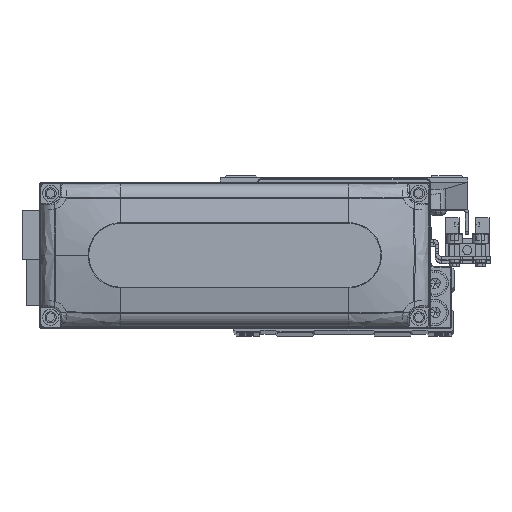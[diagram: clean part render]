
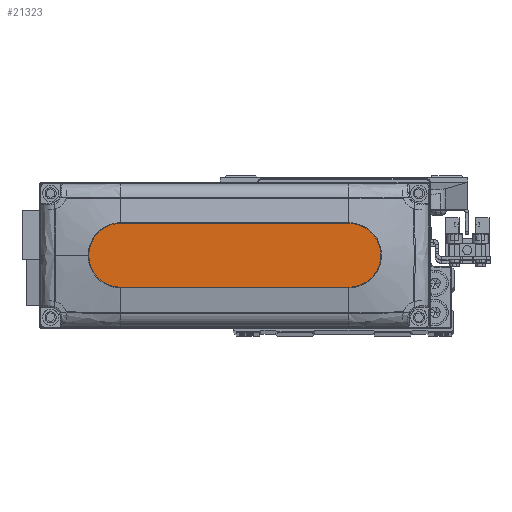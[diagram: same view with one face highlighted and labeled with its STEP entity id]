
A CAD part, top view. The second image highlights one B-rep face of the part: STEP entity #21323.
In plain terms, the highlighted planar face has unit normal (0, 0, 1).
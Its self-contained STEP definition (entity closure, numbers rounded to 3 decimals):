
#344 = VECTOR ( 'NONE', #43175, 1000. ) ;
#2510 = VERTEX_POINT ( 'NONE', #34131 ) ;
#3864 = EDGE_CURVE ( 'NONE', #31691, #20335, #16125, .T. ) ;
#5276 = DIRECTION ( 'NONE',  ( 1., 0., 0. ) ) ;
#5396 = AXIS2_PLACEMENT_3D ( 'NONE', #22849, #36994, #5276 ) ;
#8763 = PLANE ( 'NONE',  #5396 ) ;
#8989 = DIRECTION ( 'NONE',  ( 1., 0., 0. ) ) ;
#8990 = ORIENTED_EDGE ( 'NONE', *, *, #3864, .T. ) ;
#9927 = AXIS2_PLACEMENT_3D ( 'NONE', #17514, #31660, #45148 ) ;
#11906 = DIRECTION ( 'NONE',  ( 1., 0., 0. ) ) ;
#14103 = EDGE_CURVE ( 'NONE', #20335, #24855, #35795, .T. ) ;
#14937 = LINE ( 'NONE', #29043, #344 ) ;
#15816 = AXIS2_PLACEMENT_3D ( 'NONE', #29499, #43616, #11906 ) ;
#16125 = LINE ( 'NONE', #30252, #42280 ) ;
#17514 = CARTESIAN_POINT ( 'NONE',  ( 35., 0., 28. ) ) ;
#17917 = AXIS2_PLACEMENT_3D ( 'NONE', #26553, #40703, #8989 ) ;
#19234 = EDGE_CURVE ( 'NONE', #24855, #40219, #29859, .T. ) ;
#19652 = CARTESIAN_POINT ( 'NONE',  ( 35., 10., 28. ) ) ;
#19847 = ORIENTED_EDGE ( 'NONE', *, *, #14103, .T. ) ;
#20222 = ORIENTED_EDGE ( 'NONE', *, *, #22660, .T. ) ;
#20335 = VERTEX_POINT ( 'NONE', #43115 ) ;
#21323 = ADVANCED_FACE ( 'NONE', ( #40478 ), #8763, .T. ) ;
#22660 = EDGE_CURVE ( 'NONE', #2510, #31691, #37922, .T. ) ;
#22849 = CARTESIAN_POINT ( 'NONE',  ( 0., 0., 28. ) ) ;
#24855 = VERTEX_POINT ( 'NONE', #37961 ) ;
#25147 = EDGE_LOOP ( 'NONE', ( #38349, #20222, #8990, #19847, #29548 ) ) ;
#26553 = CARTESIAN_POINT ( 'NONE',  ( -35., 0., 28. ) ) ;
#29043 = CARTESIAN_POINT ( 'NONE',  ( -35., 10., 28. ) ) ;
#29499 = CARTESIAN_POINT ( 'NONE',  ( 35., 0., 28. ) ) ;
#29515 = CARTESIAN_POINT ( 'NONE',  ( -35., -10., 28. ) ) ;
#29548 = ORIENTED_EDGE ( 'NONE', *, *, #19234, .T. ) ;
#29859 = CIRCLE ( 'NONE', #9927, 10. ) ;
#30252 = CARTESIAN_POINT ( 'NONE',  ( -35., -10., 28. ) ) ;
#31660 = DIRECTION ( 'NONE',  ( 0., 0., 1. ) ) ;
#31691 = VERTEX_POINT ( 'NONE', #29515 ) ;
#34131 = CARTESIAN_POINT ( 'NONE',  ( -35., 10., 28. ) ) ;
#35795 = CIRCLE ( 'NONE', #15816, 10. ) ;
#36994 = DIRECTION ( 'NONE',  ( 0., 0., 1. ) ) ;
#37922 = CIRCLE ( 'NONE', #17917, 10. ) ;
#37961 = CARTESIAN_POINT ( 'NONE',  ( 45., 0., 28. ) ) ;
#38349 = ORIENTED_EDGE ( 'NONE', *, *, #44413, .T. ) ;
#40219 = VERTEX_POINT ( 'NONE', #19652 ) ;
#40478 = FACE_OUTER_BOUND ( 'NONE', #25147, .T. ) ;
#40703 = DIRECTION ( 'NONE',  ( 0., 0., 1. ) ) ;
#42280 = VECTOR ( 'NONE', #44385, 1000. ) ;
#43115 = CARTESIAN_POINT ( 'NONE',  ( 35., -10., 28. ) ) ;
#43175 = DIRECTION ( 'NONE',  ( -1., 0., 0. ) ) ;
#43616 = DIRECTION ( 'NONE',  ( 0., 0., 1. ) ) ;
#44385 = DIRECTION ( 'NONE',  ( 1., 0., 0. ) ) ;
#44413 = EDGE_CURVE ( 'NONE', #40219, #2510, #14937, .T. ) ;
#45148 = DIRECTION ( 'NONE',  ( 1., 0., 0. ) ) ;
